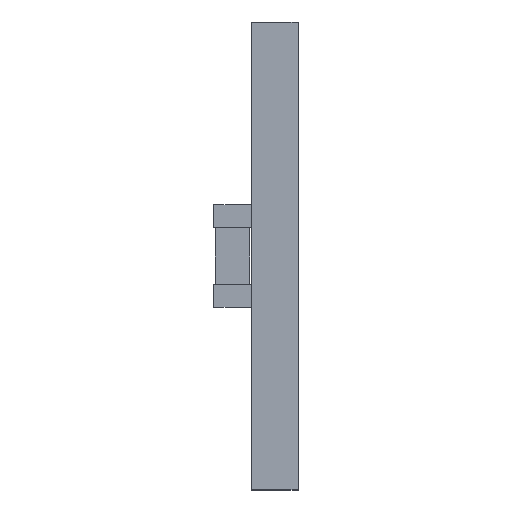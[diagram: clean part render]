
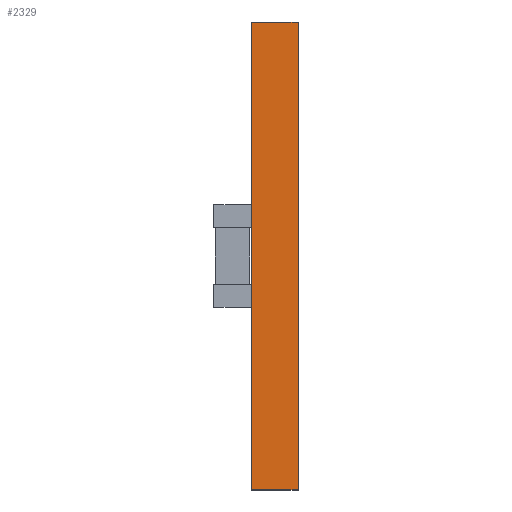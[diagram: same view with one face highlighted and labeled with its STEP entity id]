
A CAD part, left-side view. The second image highlights one B-rep face of the part: STEP entity #2329.
In plain terms, the highlighted planar face has unit normal (-1, 0, 0).
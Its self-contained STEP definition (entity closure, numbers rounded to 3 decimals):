
#43 = EDGE_LOOP ( 'NONE', ( #887, #3090, #1801, #3556 ) ) ;
#82 = CARTESIAN_POINT ( 'NONE',  ( -10., -1., -5. ) ) ;
#83 = VECTOR ( 'NONE', #575, 1000. ) ;
#147 = DIRECTION ( 'NONE',  ( 0., 0., 1. ) ) ;
#453 = CARTESIAN_POINT ( 'NONE',  ( -10., -1., 5. ) ) ;
#575 = DIRECTION ( 'NONE',  ( 0., 1., 0. ) ) ;
#648 = CARTESIAN_POINT ( 'NONE',  ( -10., 0., -5. ) ) ;
#711 = DIRECTION ( 'NONE',  ( 0., 1., 0. ) ) ;
#726 = CARTESIAN_POINT ( 'NONE',  ( -10., 0., 5. ) ) ;
#754 = CARTESIAN_POINT ( 'NONE',  ( -10., -1., 5. ) ) ;
#797 = EDGE_CURVE ( 'NONE', #930, #972, #3584, .T. ) ;
#881 = EDGE_CURVE ( 'NONE', #972, #1861, #2762, .T. ) ;
#887 = ORIENTED_EDGE ( 'NONE', *, *, #3493, .F. ) ;
#930 = VERTEX_POINT ( 'NONE', #82 ) ;
#972 = VERTEX_POINT ( 'NONE', #2677 ) ;
#1027 = VECTOR ( 'NONE', #711, 1000. ) ;
#1299 = DIRECTION ( 'NONE',  ( 0., 0., 1. ) ) ;
#1473 = VERTEX_POINT ( 'NONE', #648 ) ;
#1670 = PLANE ( 'NONE',  #1772 ) ;
#1732 = DIRECTION ( 'NONE',  ( -1., 0., 0. ) ) ;
#1772 = AXIS2_PLACEMENT_3D ( 'NONE', #754, #1732, #2673 ) ;
#1801 = ORIENTED_EDGE ( 'NONE', *, *, #797, .T. ) ;
#1861 = VERTEX_POINT ( 'NONE', #726 ) ;
#1890 = EDGE_CURVE ( 'NONE', #930, #1473, #3588, .T. ) ;
#2313 = FACE_OUTER_BOUND ( 'NONE', #43, .T. ) ;
#2329 = ADVANCED_FACE ( 'NONE', ( #2313 ), #1670, .T. ) ;
#2540 = LINE ( 'NONE', #3485, #2602 ) ;
#2602 = VECTOR ( 'NONE', #1299, 1000. ) ;
#2673 = DIRECTION ( 'NONE',  ( 0., 0., 1. ) ) ;
#2677 = CARTESIAN_POINT ( 'NONE',  ( -10., -1., 5. ) ) ;
#2762 = LINE ( 'NONE', #4018, #83 ) ;
#3090 = ORIENTED_EDGE ( 'NONE', *, *, #1890, .F. ) ;
#3267 = CARTESIAN_POINT ( 'NONE',  ( -10., -1., -5. ) ) ;
#3485 = CARTESIAN_POINT ( 'NONE',  ( -10., 0., 5. ) ) ;
#3493 = EDGE_CURVE ( 'NONE', #1473, #1861, #2540, .T. ) ;
#3556 = ORIENTED_EDGE ( 'NONE', *, *, #881, .T. ) ;
#3584 = LINE ( 'NONE', #453, #3979 ) ;
#3588 = LINE ( 'NONE', #3267, #1027 ) ;
#3979 = VECTOR ( 'NONE', #147, 1000. ) ;
#4018 = CARTESIAN_POINT ( 'NONE',  ( -10., -1., 5. ) ) ;
